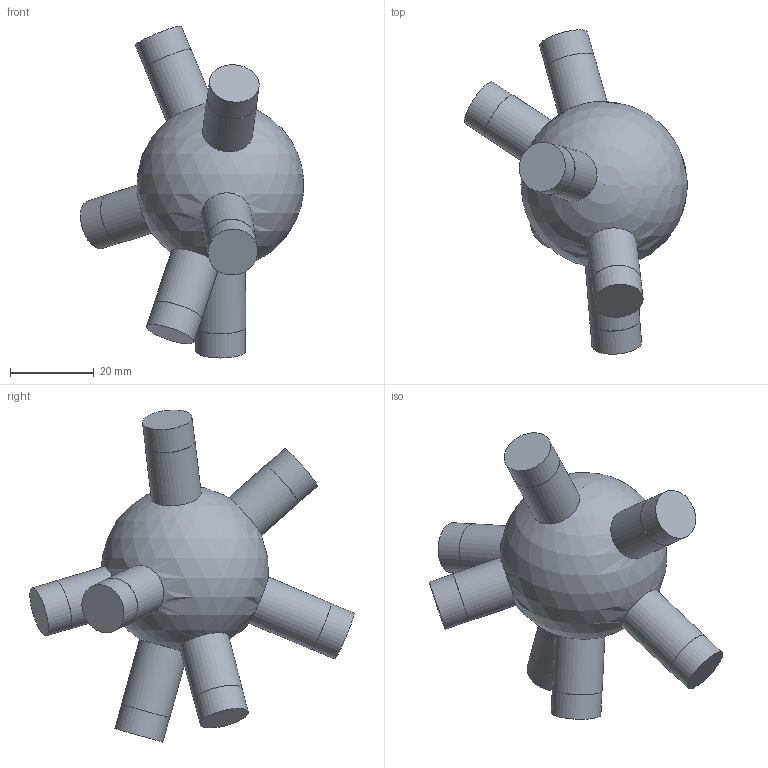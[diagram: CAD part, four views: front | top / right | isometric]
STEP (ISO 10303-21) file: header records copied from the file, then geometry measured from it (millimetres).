
FILE_DESCRIPTION(('Open CASCADE Model'),'2;1');
FILE_NAME('Open CASCADE Shape Model','2026-10-21T12:47:57',('Author'),( 'Open CASCADE'),'Open CASCADE STEP processor 7.9','Open CASCADE 7.9' ,'Unknown');
FILE_SCHEMA(('AUTOMOTIVE_DESIGN { 1 0 10303 214 1 1 1 1 }'));
Length unit declared in the file: millimetre
Products named in the file (1): Open CASCADE STEP translator 7.9 98
Bounding box: 53.37 x 77.53 x 79.37 mm (x, y, z)
Volume: 48709.6 mm3; surface area: 10209.9 mm2
Topology: 1 solids, 1 shells, 29 faces, 49 edges, 33 vertices
Faces by surface type: cylinder 14, plane 14, sphere 1
Full cylindrical faces by diameter (mm): 11.9 x7, 12 x7
Entity records: 2163 total; most frequent: CARTESIAN_POINT 1064, DIRECTION 224, ORIENTED_EDGE 96, PCURVE 96, DEFINITIONAL_REPRESENTATION 96, LINE 75, VECTOR 75, AXIS2_PLACEMENT_3D 64
